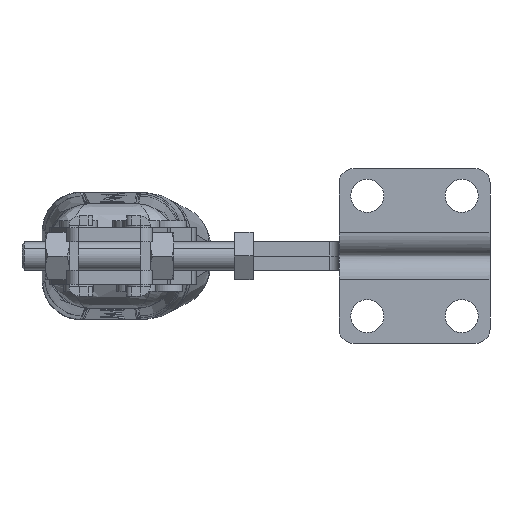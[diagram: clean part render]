
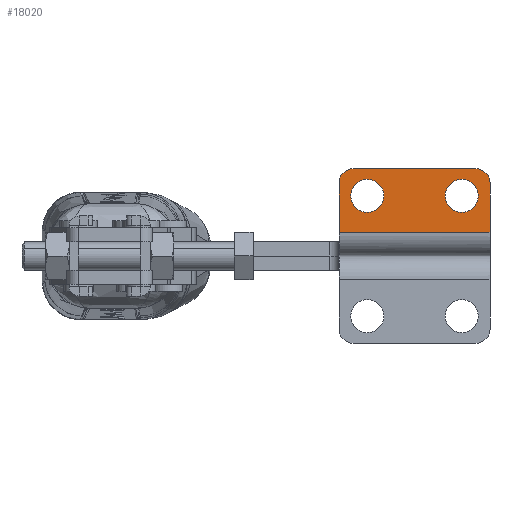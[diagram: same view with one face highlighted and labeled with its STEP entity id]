
A CAD part, left-side view. The second image highlights one B-rep face of the part: STEP entity #18020.
In plain terms, the highlighted planar face has unit normal (-1, 0, 0).
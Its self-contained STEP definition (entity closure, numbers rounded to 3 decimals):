
#29 = ORIENTED_EDGE ( 'NONE', *, *, #17158, .F. ) ;
#524 = CIRCLE ( 'NONE', #16663, 3.5 ) ;
#645 = VERTEX_POINT ( 'NONE', #11692 ) ;
#663 = DIRECTION ( 'NONE',  ( 0., 0., 1. ) ) ;
#1006 = EDGE_CURVE ( 'NONE', #10854, #7068, #13891, .T. ) ;
#1224 = DIRECTION ( 'NONE',  ( 0., 0., 1. ) ) ;
#1237 = ORIENTED_EDGE ( 'NONE', *, *, #2897, .F. ) ;
#1280 = CARTESIAN_POINT ( 'NONE',  ( -12.6, -47.988, 15.75 ) ) ;
#1461 = CARTESIAN_POINT ( 'NONE',  ( -12.6, -70.988, 18. ) ) ;
#2529 = ORIENTED_EDGE ( 'NONE', *, *, #14309, .F. ) ;
#2897 = EDGE_CURVE ( 'NONE', #5947, #17618, #524, .T. ) ;
#2940 = DIRECTION ( 'NONE',  ( -1., 0., 0. ) ) ;
#3006 = DIRECTION ( 'NONE',  ( 0., -1., 0. ) ) ;
#3084 = CARTESIAN_POINT ( 'NONE',  ( -12.6, -63.988, 18. ) ) ;
#3266 = EDGE_CURVE ( 'NONE', #20679, #10399, #16878, .T. ) ;
#3423 = CARTESIAN_POINT ( 'NONE',  ( -12.6, -47.988, 12.25 ) ) ;
#3594 = DIRECTION ( 'NONE',  ( 0., 0., 1. ) ) ;
#3687 = EDGE_LOOP ( 'NONE', ( #29, #16333, #18486, #20308, #4957, #18470 ) ) ;
#4177 = EDGE_CURVE ( 'NONE', #645, #10854, #19613, .T. ) ;
#4361 = CARTESIAN_POINT ( 'NONE',  ( -12.6, -67.988, 12.25 ) ) ;
#4912 = DIRECTION ( 'NONE',  ( 0., 1., 0. ) ) ;
#4957 = ORIENTED_EDGE ( 'NONE', *, *, #1006, .F. ) ;
#5051 = DIRECTION ( 'NONE',  ( 0., 0., 1. ) ) ;
#5184 = AXIS2_PLACEMENT_3D ( 'NONE', #3423, #14709, #5051 ) ;
#5218 = CIRCLE ( 'NONE', #5184, 3.5 ) ;
#5911 = EDGE_LOOP ( 'NONE', ( #20664, #11697 ) ) ;
#5947 = VERTEX_POINT ( 'NONE', #7930 ) ;
#6001 = DIRECTION ( 'NONE',  ( 0., 0., 1. ) ) ;
#6040 = CARTESIAN_POINT ( 'NONE',  ( -12.6, -73.988, 4.5 ) ) ;
#6070 = EDGE_LOOP ( 'NONE', ( #1237, #2529 ) ) ;
#6095 = DIRECTION ( 'NONE',  ( -1., 0., 0. ) ) ;
#6148 = DIRECTION ( 'NONE',  ( -1., 0., 0. ) ) ;
#6342 = VECTOR ( 'NONE', #663, 1000. ) ;
#6774 = CARTESIAN_POINT ( 'NONE',  ( -12.6, -100., 4.5 ) ) ;
#6803 = CARTESIAN_POINT ( 'NONE',  ( -12.6, -67.988, 15.75 ) ) ;
#7068 = VERTEX_POINT ( 'NONE', #17959 ) ;
#7129 = CIRCLE ( 'NONE', #16179, 3. ) ;
#7930 = CARTESIAN_POINT ( 'NONE',  ( -12.6, -67.988, 8.75 ) ) ;
#8702 = EDGE_CURVE ( 'NONE', #9659, #18802, #7129, .T. ) ;
#8751 = EDGE_CURVE ( 'NONE', #10822, #18802, #11917, .T. ) ;
#9659 = VERTEX_POINT ( 'NONE', #18023 ) ;
#9777 = FACE_BOUND ( 'NONE', #6070, .T. ) ;
#10399 = VERTEX_POINT ( 'NONE', #18629 ) ;
#10755 = CIRCLE ( 'NONE', #20596, 3. ) ;
#10822 = VERTEX_POINT ( 'NONE', #16495 ) ;
#10854 = VERTEX_POINT ( 'NONE', #13403 ) ;
#10863 = DIRECTION ( 'NONE',  ( -1., 0., 0. ) ) ;
#11540 = AXIS2_PLACEMENT_3D ( 'NONE', #20514, #10863, #1224 ) ;
#11692 = CARTESIAN_POINT ( 'NONE',  ( -12.6, -73.988, 4.5 ) ) ;
#11697 = ORIENTED_EDGE ( 'NONE', *, *, #3266, .F. ) ;
#11917 = LINE ( 'NONE', #3084, #20487 ) ;
#11928 = CARTESIAN_POINT ( 'NONE',  ( -12.6, -41.988, 4.5 ) ) ;
#12364 = DIRECTION ( 'NONE',  ( 0., 0., -1. ) ) ;
#12583 = CARTESIAN_POINT ( 'NONE',  ( -12.6, -70.988, 15. ) ) ;
#12948 = CARTESIAN_POINT ( 'NONE',  ( -12.6, -100., 4.5 ) ) ;
#13234 = DIRECTION ( 'NONE',  ( -1., 0., 0. ) ) ;
#13361 = AXIS2_PLACEMENT_3D ( 'NONE', #4361, #15630, #6001 ) ;
#13403 = CARTESIAN_POINT ( 'NONE',  ( -12.6, -41.988, 4.5 ) ) ;
#13551 = FACE_OUTER_BOUND ( 'NONE', #3687, .T. ) ;
#13891 = LINE ( 'NONE', #11928, #6342 ) ;
#14214 = DIRECTION ( 'NONE',  ( 0., 0., 1. ) ) ;
#14309 = EDGE_CURVE ( 'NONE', #17618, #5947, #15340, .T. ) ;
#14709 = DIRECTION ( 'NONE',  ( -1., 0., 0. ) ) ;
#15087 = LINE ( 'NONE', #6040, #18872 ) ;
#15340 = CIRCLE ( 'NONE', #13361, 3.5 ) ;
#15345 = VECTOR ( 'NONE', #4912, 1000. ) ;
#15630 = DIRECTION ( 'NONE',  ( -1., 0., 0. ) ) ;
#15718 = AXIS2_PLACEMENT_3D ( 'NONE', #6774, #13234, #3594 ) ;
#15722 = CARTESIAN_POINT ( 'NONE',  ( -12.6, -44.988, 15. ) ) ;
#15772 = CARTESIAN_POINT ( 'NONE',  ( -12.6, -67.988, 12.25 ) ) ;
#16179 = AXIS2_PLACEMENT_3D ( 'NONE', #12583, #2940, #14214 ) ;
#16333 = ORIENTED_EDGE ( 'NONE', *, *, #8702, .T. ) ;
#16495 = CARTESIAN_POINT ( 'NONE',  ( -12.6, -44.988, 18. ) ) ;
#16663 = AXIS2_PLACEMENT_3D ( 'NONE', #15772, #6148, #17396 ) ;
#16878 = CIRCLE ( 'NONE', #11540, 3.5 ) ;
#17158 = EDGE_CURVE ( 'NONE', #9659, #645, #15087, .T. ) ;
#17342 = DIRECTION ( 'NONE',  ( 0., 0., 1. ) ) ;
#17396 = DIRECTION ( 'NONE',  ( 0., 0., 1. ) ) ;
#17618 = VERTEX_POINT ( 'NONE', #6803 ) ;
#17837 = FACE_BOUND ( 'NONE', #5911, .T. ) ;
#17959 = CARTESIAN_POINT ( 'NONE',  ( -12.6, -41.988, 15. ) ) ;
#18020 = ADVANCED_FACE ( 'NONE', ( #13551, #9777, #17837 ), #19650, .T. ) ;
#18023 = CARTESIAN_POINT ( 'NONE',  ( -12.6, -73.988, 15. ) ) ;
#18384 = EDGE_CURVE ( 'NONE', #10399, #20679, #5218, .T. ) ;
#18470 = ORIENTED_EDGE ( 'NONE', *, *, #4177, .F. ) ;
#18486 = ORIENTED_EDGE ( 'NONE', *, *, #8751, .F. ) ;
#18629 = CARTESIAN_POINT ( 'NONE',  ( -12.6, -47.988, 8.75 ) ) ;
#18802 = VERTEX_POINT ( 'NONE', #1461 ) ;
#18872 = VECTOR ( 'NONE', #12364, 1000. ) ;
#19380 = EDGE_CURVE ( 'NONE', #10822, #7068, #10755, .T. ) ;
#19613 = LINE ( 'NONE', #12948, #15345 ) ;
#19650 = PLANE ( 'NONE',  #15718 ) ;
#20308 = ORIENTED_EDGE ( 'NONE', *, *, #19380, .T. ) ;
#20487 = VECTOR ( 'NONE', #3006, 1000. ) ;
#20514 = CARTESIAN_POINT ( 'NONE',  ( -12.6, -47.988, 12.25 ) ) ;
#20596 = AXIS2_PLACEMENT_3D ( 'NONE', #15722, #6095, #17342 ) ;
#20664 = ORIENTED_EDGE ( 'NONE', *, *, #18384, .F. ) ;
#20679 = VERTEX_POINT ( 'NONE', #1280 ) ;
